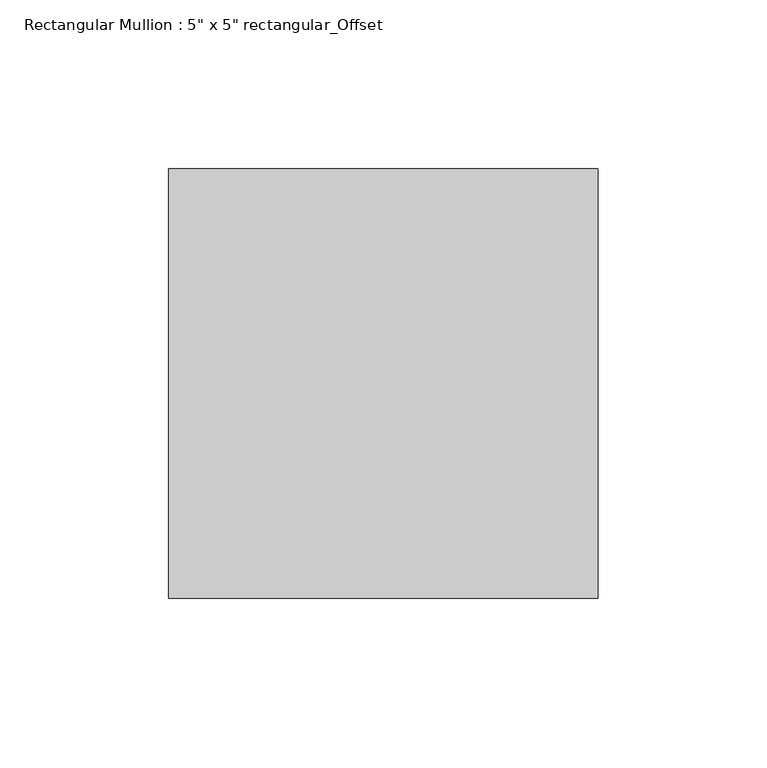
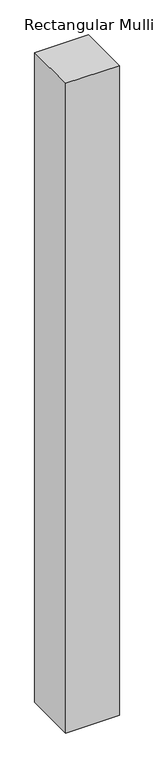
"""IFC4 building model written with IfcOpenShell, lengths in millimetres: member geometry."""

from ifc_helpers import new_model, si_unit, frame, origin, place, context, project, spatial, polyline, outline, extrude, source, transform, mapped, element, save


def member_6cd44b73(model_context):
    return source(origin(), model_context, "Body", "SweptSolid", [
        extrude(outline(polyline([(0.0, 76.2), (0.0, -50.8), (-127.0, -50.8), (-127.0, 76.2), (0.0, 76.2)])), frame((0.0, 0.0, -1625.6), z_axis=(0.0, 0.0, 1.0), x_axis=(1.0, 0.0, 0.0)), (0.0, 0.0, 1.0), 1625.6),
    ])


if __name__ == "__main__":
    model = new_model("IFC4")
    model_context = context("Model", 3, world=origin())
    ifc_project = project(units=[si_unit("LENGTHUNIT", "METRE", prefix="MILLI")], contexts=[model_context])
    site = spatial("IfcSite", under=ifc_project)
    building = spatial("IfcBuilding", under=site)
    placement = place(None, origin())
    member_shape = member_6cd44b73(model_context)
    element("IfcMember", 1, ObjectType="Rectangular Mullion : 5\" x 5\" rectangular_Offset", at=placement, inside=building, context=model_context, shape_type="MappedRepresentation", body=[
        mapped(member_shape, transform((0.0, 0.0, 0.0), x_axis=(1.0, 0.0, 0.0), y_axis=(0.0, 1.0, 0.0), z_axis=(0.0, 0.0, 1.0))),
    ])
    save(model, "model.ifc")
